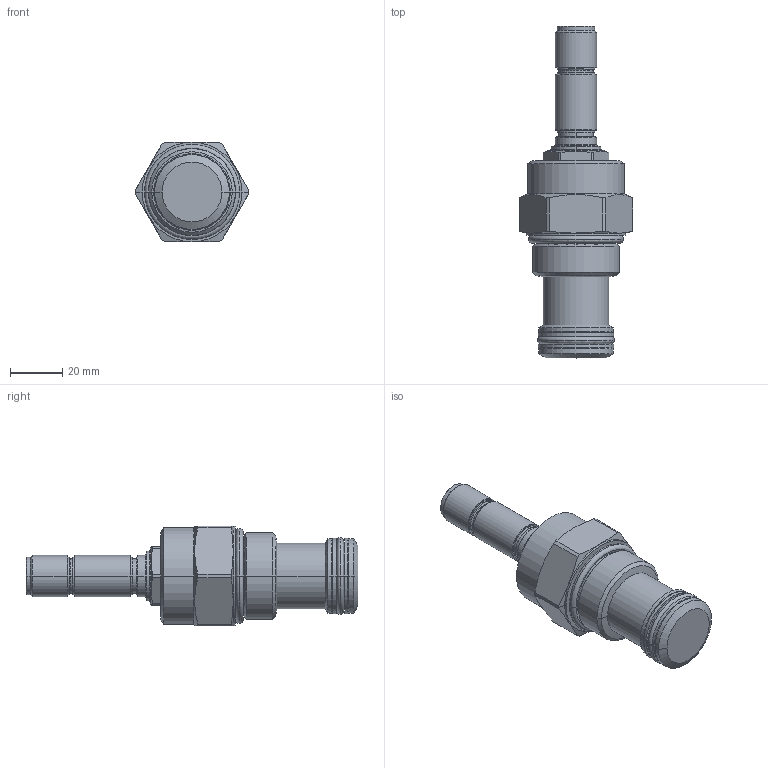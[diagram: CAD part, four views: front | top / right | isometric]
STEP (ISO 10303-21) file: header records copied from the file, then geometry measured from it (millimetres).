
FILE_DESCRIPTION((''),'2;1');
FILE_NAME('5111500_SW0001','2009-03-17T',('jcs'),(''),'PRO/ENGINEER BY PARAMETRIC TECHNOLOGY CORPORATION, 2008010','PRO/ENGINEER BY PARAMETRIC TECHNOLOGY CORPORATION, 2008010','');
FILE_SCHEMA(('CONFIG_CONTROL_DESIGN'));
Length unit declared in the file: inch
Products named in the file (1): 5111500_SW0001
Bounding box: 43.23 x 126.6 x 38.1 mm (x, y, z)
Volume: 73620.3 mm3; surface area: 16311.7 mm2
Topology: 5 solids, 5 shells, 181 faces, 390 edges, 228 vertices
Faces by surface type: cylinder 64, cone 40, plane 31, torus 30, revolution 16
Entity records: 5490 total; most frequent: CARTESIAN_POINT 1429, DIRECTION 920, ORIENTED_EDGE 780, AXIS2_PLACEMENT_3D 397, EDGE_CURVE 390, CIRCLE 232, VERTEX_POINT 228, EDGE_LOOP 198
